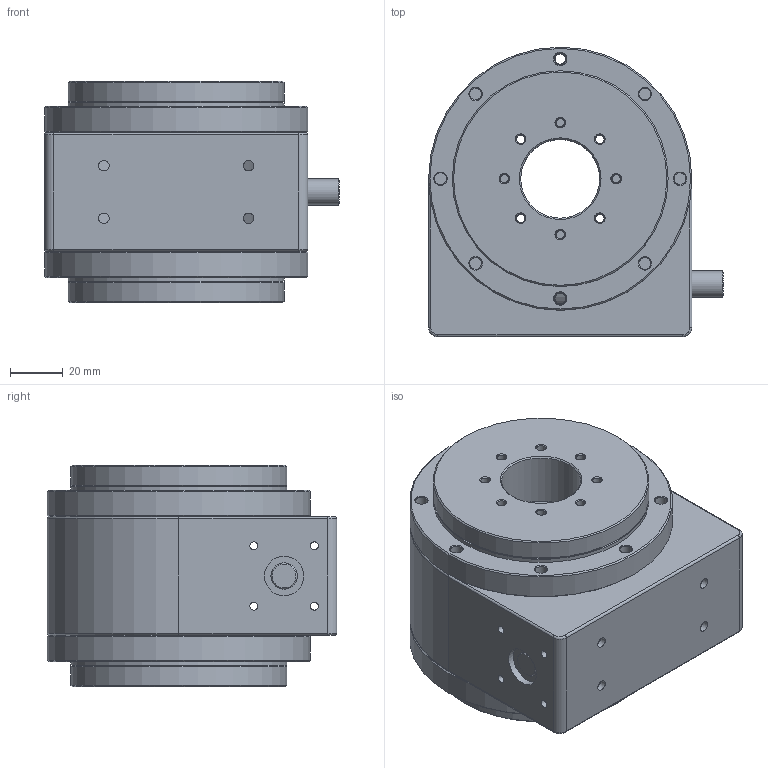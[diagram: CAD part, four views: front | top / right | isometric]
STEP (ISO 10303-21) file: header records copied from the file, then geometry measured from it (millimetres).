
FILE_DESCRIPTION((''),'2;1');
FILE_NAME('I:\Gleitlager\Konstruktion\robolink\Vorserie\RL-D\RL-D Gelenke\Simpel STEP 101\RL-D-30-101-50-high-end.stp','2015-05-19T11:08:03',('mraak'),(''),'Autodesk Inventor 2013','Autodesk Inventor 2013','');
FILE_SCHEMA(('AUTOMOTIVE_DESIGN { 1 0 10303 214 1 1 1 1 }'));
Length unit declared in the file: millimetre
Products named in the file (8): ___RL-D-30-101-50-00033; ___RL-D-30-0XXXX; ___RL-D-30-X0XXX; PRT-01-30; Bauteil31; Bauteil27; Bauteil29; Bauteil19
Assembly tree (11 placements, depth 3):
  ___RL-D-30-101-50-00033
    ___RL-D-30-0XXXX
    ___RL-D-30-X0XXX
    PRT-01-30  x2
      Bauteil31
      Bauteil27
      Bauteil29
      Bauteil19
Bounding box: 112 x 110 x 84 mm (x, y, z)
Volume: 382808.8 mm3; surface area: 173707.1 mm2
Topology: 16 solids, 16 shells, 511 faces, 989 edges, 568 vertices
Faces by surface type: cone 194, plane 150, cylinder 149, torus 18
Full cylindrical faces by diameter (mm): 3 x8, 3.3 x16, 4 x24, 4.5 x32, 7 x8, 8 x16, 10 x4, 15 x2, 20 x3, 30 x4, 55 x4, 58 x4, 82 x8, 83 x2, 100 x2
Entity records: 5965 total; most frequent: DIRECTION 1102, CARTESIAN_POINT 873, ORIENTED_EDGE 650, AXIS2_PLACEMENT_3D 530, EDGE_LOOP 506, EDGE_CURVE 325, VERTEX_POINT 283, CIRCLE 277
